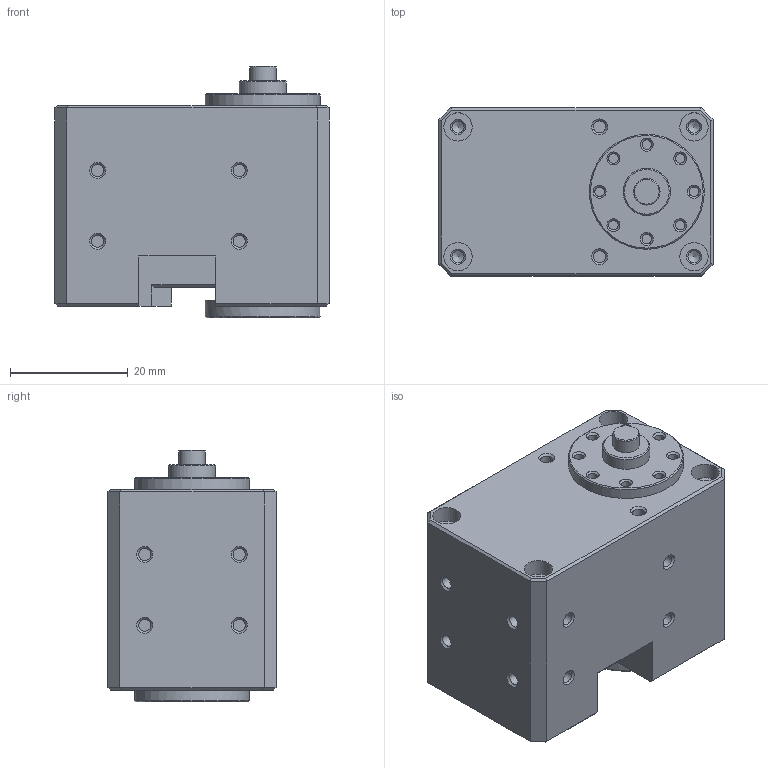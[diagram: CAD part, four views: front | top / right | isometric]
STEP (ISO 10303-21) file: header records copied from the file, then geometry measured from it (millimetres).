
FILE_DESCRIPTION(('Open CASCADE Model'),'2;1');
FILE_NAME('Open CASCADE Shape Model','2026-11-24T19:57:40',('Author'),( 'Open CASCADE'),'Open CASCADE STEP processor 7.8','Open CASCADE 7.8' ,'Unknown');
FILE_SCHEMA(('AUTOMOTIVE_DESIGN { 1 0 10303 214 1 1 1 1 }'));
Length unit declared in the file: millimetre
Products named in the file (1): Open CASCADE STEP translator 7.8 166
Bounding box: 46.5 x 28.5 x 42.7 mm (x, y, z)
Volume: 43429.9 mm3; surface area: 9691.4 mm2
Topology: 1 solids, 1 shells, 227 faces, 488 edges, 307 vertices
Faces by surface type: plane 106, cylinder 61, cone 60
Full cylindrical faces by diameter (mm): 1.6 x16, 2.05 x24, 2.6 x8, 4.5 x1, 4.8 x8, 8 x1, 12.2 x1, 19.5 x2
Entity records: 12150 total; most frequent: CARTESIAN_POINT 2204, DIRECTION 1926, LINE 979, VECTOR 979, ORIENTED_EDGE 944, PCURVE 944, DEFINITIONAL_REPRESENTATION 944, EDGE_CURVE 472
